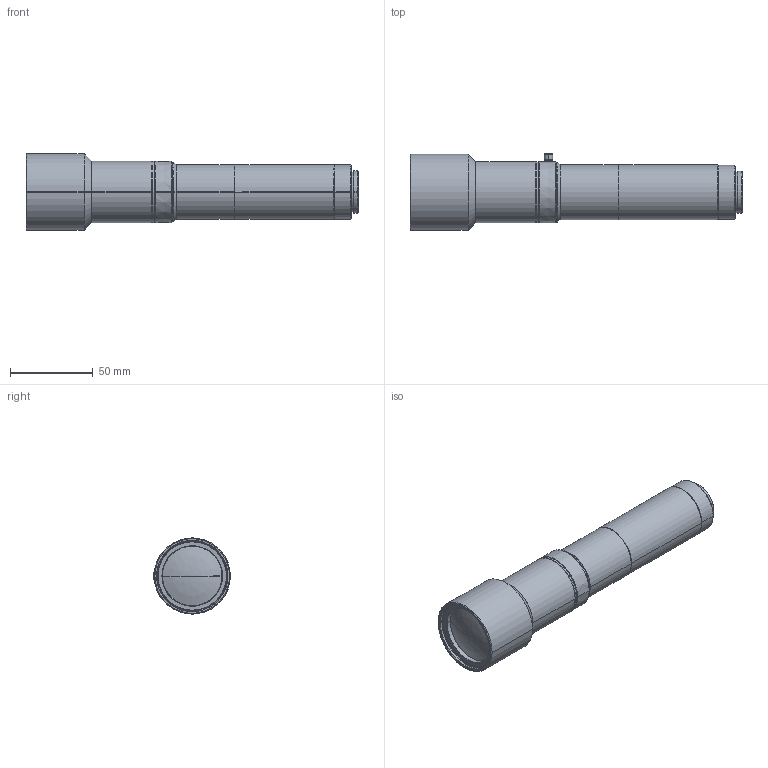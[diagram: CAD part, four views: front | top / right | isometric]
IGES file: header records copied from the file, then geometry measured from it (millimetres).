
Start section: SolidWorks IGES file using analytic representation for surfaces
Global section: file name: \\192.168.200.11\Development\4 ŠJ”­ŒŸ“¢\2020”N“x\D-2000206_THV3-110\10.3DŠOŠÏƒ‚ƒfƒ‹\VS-THV3-110_S.IGS; native system: SolidWorks 2018; preprocessor: SolidWorks 2018; author: tsuzuki_vst; date: 200519.081959; units: millimetre
Bounding box: 200.27 x 46.3 x 46 mm (x, y, z)
Surface area: 27201.1 mm2 (no closed solid volume)
Topology: 0 solids, 0 shells, 109 faces, 1976 edges, 1975 vertices
Faces by surface type: revolution 94, bspline 15
